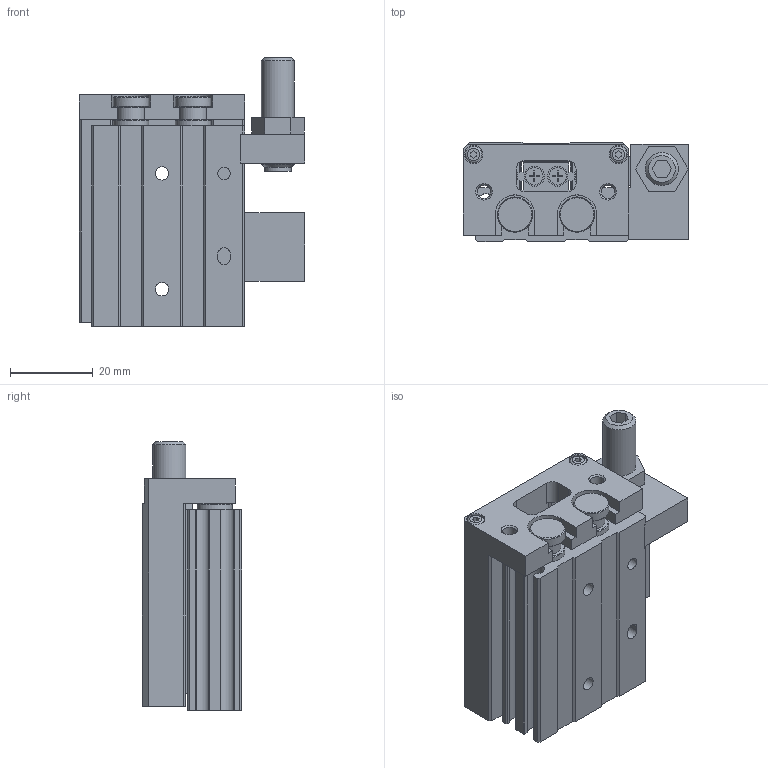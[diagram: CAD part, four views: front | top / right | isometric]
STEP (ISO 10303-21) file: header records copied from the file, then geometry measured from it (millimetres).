
FILE_DESCRIPTION( ( 'STEP AP214' ), '1' );
FILE_NAME( 'C:/Users/EMC02301/Desktop/ELSL图纸/ELSL8X10-S-AS.stp', '2026-08-05T07:04:25', ( 'License CC BY-ND 4.0' ), ( 'CADENAS' ), ' ', 'PARTsolutions', ' ' );
FILE_SCHEMA( ( 'AUTOMOTIVE_DESIGN { 1 0 10303 214 1 1 1 1 }' ) );
Length unit declared in the file: millimetre
Products named in the file (5): ELSL8X10-S-AS(0)(); _ELSL8X10-S-AS(HX-07)(HX-07-1)(0-body); _ELSL8X10-S-AS(0-rod); _FJ-ELS8-AS; _FJ-ELSL8-AS-(AS)
Assembly tree (4 placements, depth 2):
  ELSL8X10-S-AS(0)()
    _ELSL8X10-S-AS(HX-07)(HX-07-1)(0-body)
    _ELSL8X10-S-AS(0-rod)
    _FJ-ELS8-AS
    _FJ-ELSL8-AS-(AS)
Bounding box: 54.5 x 24 x 65 mm (x, y, z)
Volume: 47818.6 mm3; surface area: 25430.1 mm2
Topology: 4 solids, 4 shells, 503 faces, 1237 edges, 809 vertices
Faces by surface type: plane 386, cylinder 87, cone 28, torus 2
Full cylindrical faces by diameter (mm): 2.459 x12, 3 x2, 3.242 x4, 3.3 x2, 4 x6, 4.2 x8, 4.267 x2, 4.4 x2, 4.459 x2, 4.667 x2, 4.8 x8, 5.133 x2, 5.533 x2, 6.4 x1, 7 x4, 8 x6, 8.5 x6, 9.2 x2
Entity records: 18175 total; most frequent: CARTESIAN_POINT 2417, DIRECTION 2351, ORIENTED_EDGE 2234, EDGE_CURVE 1117, LINE 899, VECTOR 899, VERTEX_POINT 792, AXIS2_PLACEMENT_3D 726
